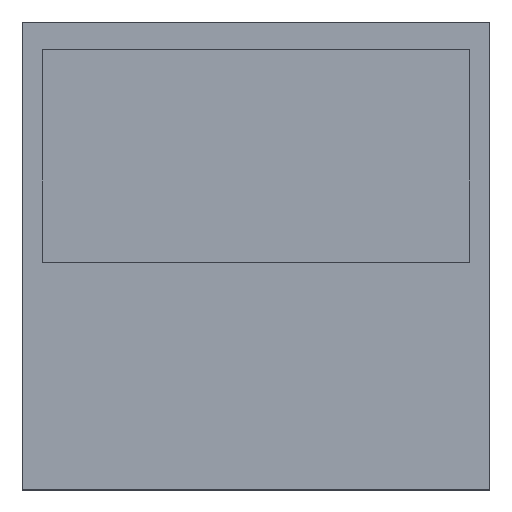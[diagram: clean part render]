
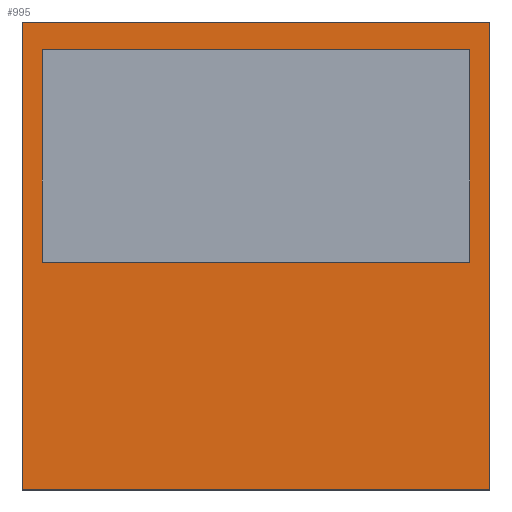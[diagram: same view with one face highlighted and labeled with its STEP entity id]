
A CAD part, top view. The second image highlights one B-rep face of the part: STEP entity #995.
In plain terms, the highlighted planar face has unit normal (0, 0, 1).
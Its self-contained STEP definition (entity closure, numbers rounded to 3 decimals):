
#57 = DIRECTION ( 'NONE',  ( 0., -1., 0. ) ) ;
#69 = CARTESIAN_POINT ( 'NONE',  ( 1.325, 0.66, 0. ) ) ;
#78 = DIRECTION ( 'NONE',  ( -1., 0., 0. ) ) ;
#118 = DIRECTION ( 'NONE',  ( 0., 1., 0. ) ) ;
#180 = CARTESIAN_POINT ( 'NONE',  ( -1.325, -0.66, 0. ) ) ;
#184 = FACE_BOUND ( 'NONE', #1436, .T. ) ;
#204 = VECTOR ( 'NONE', #417, 1000. ) ;
#213 = PLANE ( 'NONE',  #345 ) ;
#221 = VECTOR ( 'NONE', #118, 1000. ) ;
#223 = EDGE_CURVE ( 'NONE', #255, #416, #804, .T. ) ;
#239 = CARTESIAN_POINT ( 'NONE',  ( 1.45, -2.07, 0. ) ) ;
#251 = LINE ( 'NONE', #877, #204 ) ;
#255 = VERTEX_POINT ( 'NONE', #69 ) ;
#295 = EDGE_CURVE ( 'NONE', #297, #566, #1454, .T. ) ;
#297 = VERTEX_POINT ( 'NONE', #1489 ) ;
#302 = ORIENTED_EDGE ( 'NONE', *, *, #1503, .F. ) ;
#303 = CARTESIAN_POINT ( 'NONE',  ( 1.325, -0.66, 0. ) ) ;
#323 = DIRECTION ( 'NONE',  ( 0., 1., 0. ) ) ;
#339 = DIRECTION ( 'NONE',  ( -1., 0., 0. ) ) ;
#345 = AXIS2_PLACEMENT_3D ( 'NONE', #926, #575, #941 ) ;
#347 = LINE ( 'NONE', #180, #716 ) ;
#349 = VECTOR ( 'NONE', #339, 1000. ) ;
#353 = ORIENTED_EDGE ( 'NONE', *, *, #223, .F. ) ;
#410 = VERTEX_POINT ( 'NONE', #927 ) ;
#415 = EDGE_CURVE ( 'NONE', #1126, #854, #1161, .T. ) ;
#416 = VERTEX_POINT ( 'NONE', #449 ) ;
#417 = DIRECTION ( 'NONE',  ( 0., -1., 0. ) ) ;
#442 = VECTOR ( 'NONE', #323, 1000. ) ;
#445 = CARTESIAN_POINT ( 'NONE',  ( 1.45, -2.07, 0. ) ) ;
#449 = CARTESIAN_POINT ( 'NONE',  ( -1.325, 0.66, 0. ) ) ;
#451 = VERTEX_POINT ( 'NONE', #239 ) ;
#489 = ORIENTED_EDGE ( 'NONE', *, *, #948, .F. ) ;
#566 = VERTEX_POINT ( 'NONE', #599 ) ;
#575 = DIRECTION ( 'NONE',  ( 0., 0., 1. ) ) ;
#578 = ORIENTED_EDGE ( 'NONE', *, *, #1488, .F. ) ;
#599 = CARTESIAN_POINT ( 'NONE',  ( 1.45, 0.83, 0. ) ) ;
#664 = FACE_OUTER_BOUND ( 'NONE', #1405, .T. ) ;
#665 = DIRECTION ( 'NONE',  ( 1., 0., 0. ) ) ;
#692 = CARTESIAN_POINT ( 'NONE',  ( -1.325, -0.66, 0. ) ) ;
#716 = VECTOR ( 'NONE', #57, 1000. ) ;
#762 = ORIENTED_EDGE ( 'NONE', *, *, #1328, .F. ) ;
#804 = LINE ( 'NONE', #1013, #894 ) ;
#823 = ORIENTED_EDGE ( 'NONE', *, *, #415, .F. ) ;
#846 = LINE ( 'NONE', #1447, #442 ) ;
#854 = VERTEX_POINT ( 'NONE', #303 ) ;
#877 = CARTESIAN_POINT ( 'NONE',  ( 1.45, -2.07, 0. ) ) ;
#894 = VECTOR ( 'NONE', #78, 1000. ) ;
#926 = CARTESIAN_POINT ( 'NONE',  ( 0., 0., 0. ) ) ;
#927 = CARTESIAN_POINT ( 'NONE',  ( -1.45, -2.07, 0. ) ) ;
#941 = DIRECTION ( 'NONE',  ( 1., 0., 0. ) ) ;
#948 = EDGE_CURVE ( 'NONE', #854, #255, #1365, .T. ) ;
#959 = CARTESIAN_POINT ( 'NONE',  ( -1.325, -0.66, 0. ) ) ;
#983 = LINE ( 'NONE', #445, #349 ) ;
#995 = ADVANCED_FACE ( 'NONE', ( #664, #184 ), #213, .T. ) ;
#998 = EDGE_CURVE ( 'NONE', #451, #410, #983, .T. ) ;
#1011 = VECTOR ( 'NONE', #1277, 1000. ) ;
#1013 = CARTESIAN_POINT ( 'NONE',  ( -1.325, 0.66, 0. ) ) ;
#1126 = VERTEX_POINT ( 'NONE', #959 ) ;
#1144 = ORIENTED_EDGE ( 'NONE', *, *, #998, .F. ) ;
#1161 = LINE ( 'NONE', #692, #1011 ) ;
#1177 = CARTESIAN_POINT ( 'NONE',  ( 1.325, -0.66, 0. ) ) ;
#1277 = DIRECTION ( 'NONE',  ( 1., 0., 0. ) ) ;
#1328 = EDGE_CURVE ( 'NONE', #416, #1126, #347, .T. ) ;
#1332 = ORIENTED_EDGE ( 'NONE', *, *, #295, .F. ) ;
#1365 = LINE ( 'NONE', #1177, #221 ) ;
#1374 = CARTESIAN_POINT ( 'NONE',  ( 1.45, 0.83, 0. ) ) ;
#1385 = VECTOR ( 'NONE', #665, 1000. ) ;
#1405 = EDGE_LOOP ( 'NONE', ( #302, #1144, #578, #1332 ) ) ;
#1436 = EDGE_LOOP ( 'NONE', ( #489, #823, #762, #353 ) ) ;
#1447 = CARTESIAN_POINT ( 'NONE',  ( -1.45, -2.07, 0. ) ) ;
#1454 = LINE ( 'NONE', #1374, #1385 ) ;
#1488 = EDGE_CURVE ( 'NONE', #566, #451, #251, .T. ) ;
#1489 = CARTESIAN_POINT ( 'NONE',  ( -1.45, 0.83, 0. ) ) ;
#1503 = EDGE_CURVE ( 'NONE', #410, #297, #846, .T. ) ;
